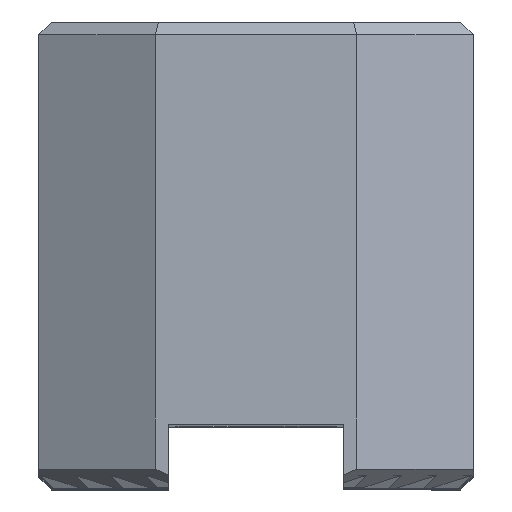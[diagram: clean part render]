
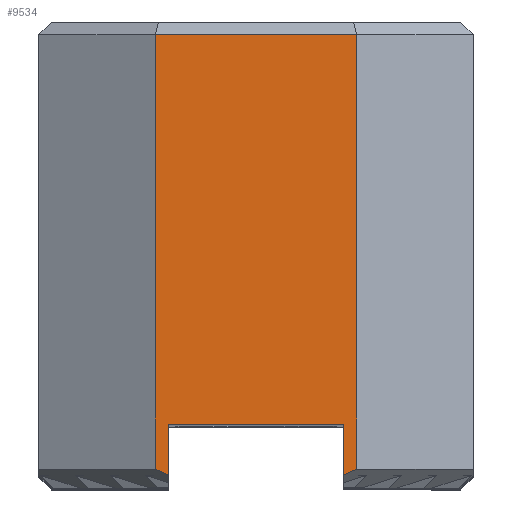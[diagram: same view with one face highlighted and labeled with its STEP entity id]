
A CAD part, top view. The second image highlights one B-rep face of the part: STEP entity #9534.
In plain terms, the highlighted planar face has unit normal (0, 0, 1).
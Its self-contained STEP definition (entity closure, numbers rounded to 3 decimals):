
#566=FACE_OUTER_BOUND('',#1100,.T.);
#1100=EDGE_LOOP('',(#8477,#8478,#8479,#8480,#8481,#8482,#8483,#8484));
#1103=LINE('',#12498,#2413);
#1296=LINE('',#12883,#2606);
#1488=LINE('',#13271,#2798);
#2370=LINE('',#15036,#3680);
#2373=LINE('',#15044,#3683);
#2379=LINE('',#15056,#3689);
#2402=LINE('',#15101,#3712);
#2410=LINE('',#15137,#3720);
#2413=VECTOR('',#10104,10.);
#2606=VECTOR('',#10299,10.);
#2798=VECTOR('',#10497,10.);
#3680=VECTOR('',#12371,10.);
#3683=VECTOR('',#12382,10.);
#3689=VECTOR('',#12392,10.);
#3712=VECTOR('',#12441,10.);
#3720=VECTOR('',#12487,10.);
#3723=VERTEX_POINT('',#12495);
#3724=VERTEX_POINT('',#12497);
#3915=VERTEX_POINT('',#12881);
#4108=VERTEX_POINT('',#13269);
#4495=VERTEX_POINT('',#15034);
#4496=VERTEX_POINT('',#15043);
#4500=VERTEX_POINT('',#15055);
#4508=VERTEX_POINT('',#15095);
#4521=EDGE_CURVE('',#3724,#3723,#1103,.T.);
#4714=EDGE_CURVE('',#3723,#3915,#1296,.T.);
#4908=EDGE_CURVE('',#3915,#4108,#1488,.T.);
#5791=EDGE_CURVE('',#4495,#4108,#2370,.T.);
#5794=EDGE_CURVE('',#3724,#4496,#2373,.T.);
#5800=EDGE_CURVE('',#4496,#4500,#2379,.T.);
#5823=EDGE_CURVE('',#4500,#4508,#2402,.T.);
#5840=EDGE_CURVE('',#4495,#4508,#2410,.T.);
#8477=ORIENTED_EDGE('',*,*,#4908,.T.);
#8478=ORIENTED_EDGE('',*,*,#5791,.F.);
#8479=ORIENTED_EDGE('',*,*,#5840,.T.);
#8480=ORIENTED_EDGE('',*,*,#5823,.F.);
#8481=ORIENTED_EDGE('',*,*,#5800,.F.);
#8482=ORIENTED_EDGE('',*,*,#5794,.F.);
#8483=ORIENTED_EDGE('',*,*,#4521,.T.);
#8484=ORIENTED_EDGE('',*,*,#4714,.T.);
#9006=PLANE('',#10097);
#9534=ADVANCED_FACE('',(#566),#9006,.T.);
#10097=AXIS2_PLACEMENT_3D('',#15138,#12488,#12489);
#10104=DIRECTION('',(0.,1.,0.));
#10299=DIRECTION('',(1.,0.,0.));
#10497=DIRECTION('',(0.,-1.,0.));
#12371=DIRECTION('',(-0.903,-0.429,0.));
#12382=DIRECTION('',(-0.903,0.429,0.));
#12392=DIRECTION('',(0.,1.,0.));
#12441=DIRECTION('',(1.,0.,0.));
#12487=DIRECTION('',(0.,1.,0.));
#12488=DIRECTION('center_axis',(0.,0.,1.));
#12489=DIRECTION('ref_axis',(1.,0.,0.));
#12495=CARTESIAN_POINT('',(-6.95,5.,47.5));
#12497=CARTESIAN_POINT('',(-6.95,1.001,47.5));
#12498=CARTESIAN_POINT('',(-6.95,0.,47.5));
#12881=CARTESIAN_POINT('',(6.95,5.,47.5));
#12883=CARTESIAN_POINT('',(-7.475,5.,47.5));
#13269=CARTESIAN_POINT('',(6.95,1.001,47.5));
#13271=CARTESIAN_POINT('',(6.95,2.5,47.5));
#15034=CARTESIAN_POINT('',(8.,1.5,47.5));
#15036=CARTESIAN_POINT('',(3.683,-0.553,47.5));
#15043=CARTESIAN_POINT('',(-8.,1.5,47.5));
#15044=CARTESIAN_POINT('',(-12.093,3.446,47.5));
#15055=CARTESIAN_POINT('',(-8.,36.,47.5));
#15056=CARTESIAN_POINT('',(-8.,0.,47.5));
#15095=CARTESIAN_POINT('',(8.,36.,47.5));
#15101=CARTESIAN_POINT('',(-4.,36.,47.5));
#15137=CARTESIAN_POINT('',(8.,0.,47.5));
#15138=CARTESIAN_POINT('Origin',(-8.,0.,47.5));
